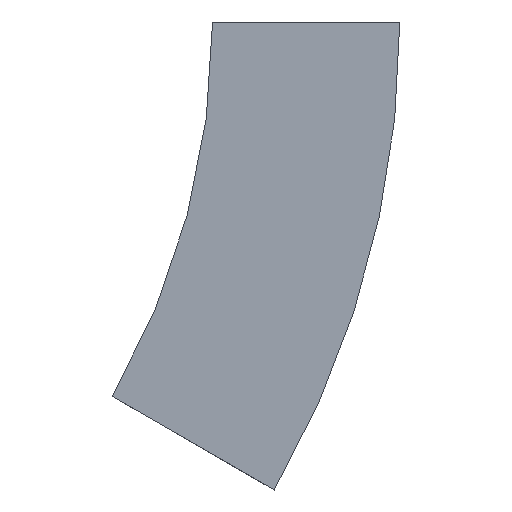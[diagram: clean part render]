
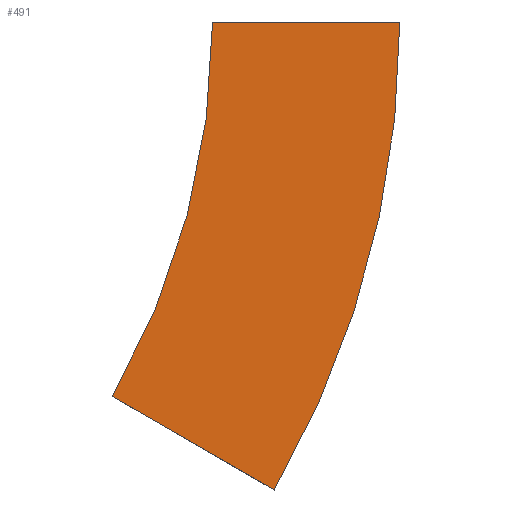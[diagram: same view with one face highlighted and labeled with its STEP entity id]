
A CAD part, left-side view. The second image highlights one B-rep face of the part: STEP entity #491.
In plain terms, the highlighted planar face has unit normal (-1, 0, 0) as drawn and (1, 0, 0) by its records, which use the part's own axes.
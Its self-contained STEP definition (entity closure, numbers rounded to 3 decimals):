
#30 = AXIS2_PLACEMENT_3D ( 'NONE', #272, #211, #227 ) ;
#34 = DIRECTION ( 'NONE',  ( 0., -1., 0. ) ) ;
#42 = LINE ( 'NONE', #116, #501 ) ;
#48 = PLANE ( 'NONE',  #425 ) ;
#62 = EDGE_CURVE ( 'NONE', #228, #251, #81, .T. ) ;
#81 = LINE ( 'NONE', #118, #146 ) ;
#93 = DIRECTION ( 'NONE',  ( 0., 0., 1. ) ) ;
#94 = CARTESIAN_POINT ( 'NONE',  ( 0., 0., 0. ) ) ;
#96 = CARTESIAN_POINT ( 'NONE',  ( 0., -75., 0. ) ) ;
#98 = ORIENTED_EDGE ( 'NONE', *, *, #370, .T. ) ;
#114 = VERTEX_POINT ( 'NONE', #166 ) ;
#116 = CARTESIAN_POINT ( 'NONE',  ( 0., -24.76, -187.5 ) ) ;
#118 = CARTESIAN_POINT ( 'NONE',  ( 0., -75., 0. ) ) ;
#122 = ORIENTED_EDGE ( 'NONE', *, *, #510, .T. ) ;
#124 = CARTESIAN_POINT ( 'NONE',  ( 0., 300., 0. ) ) ;
#146 = VECTOR ( 'NONE', #200, 1000. ) ;
#150 = DIRECTION ( 'NONE',  ( 0., 0.866, 0.5 ) ) ;
#166 = CARTESIAN_POINT ( 'NONE',  ( 0., 40.192, -150. ) ) ;
#195 = AXIS2_PLACEMENT_3D ( 'NONE', #124, #292, #34 ) ;
#200 = DIRECTION ( 'NONE',  ( 0., 1., 0. ) ) ;
#211 = DIRECTION ( 'NONE',  ( 1., 0., 0. ) ) ;
#227 = DIRECTION ( 'NONE',  ( 0., -1., 0. ) ) ;
#228 = VERTEX_POINT ( 'NONE', #536 ) ;
#233 = CIRCLE ( 'NONE', #195, 300. ) ;
#251 = VERTEX_POINT ( 'NONE', #94 ) ;
#260 = DIRECTION ( 'NONE',  ( -1., 0., 0. ) ) ;
#272 = CARTESIAN_POINT ( 'NONE',  ( 0., 300., 0. ) ) ;
#292 = DIRECTION ( 'NONE',  ( 1., 0., 0. ) ) ;
#293 = EDGE_LOOP ( 'NONE', ( #313, #390, #122, #98 ) ) ;
#312 = FACE_OUTER_BOUND ( 'NONE', #293, .T. ) ;
#313 = ORIENTED_EDGE ( 'NONE', *, *, #326, .F. ) ;
#326 = EDGE_CURVE ( 'NONE', #251, #114, #233, .T. ) ;
#351 = CIRCLE ( 'NONE', #30, 375. ) ;
#370 = EDGE_CURVE ( 'NONE', #446, #114, #42, .T. ) ;
#390 = ORIENTED_EDGE ( 'NONE', *, *, #62, .F. ) ;
#425 = AXIS2_PLACEMENT_3D ( 'NONE', #96, #260, #93 ) ;
#446 = VERTEX_POINT ( 'NONE', #490 ) ;
#490 = CARTESIAN_POINT ( 'NONE',  ( 0., -24.76, -187.5 ) ) ;
#491 = ADVANCED_FACE ( 'NONE', ( #312 ), #48, .F. ) ;
#501 = VECTOR ( 'NONE', #150, 1000. ) ;
#510 = EDGE_CURVE ( 'NONE', #228, #446, #351, .T. ) ;
#536 = CARTESIAN_POINT ( 'NONE',  ( 0., -75., 0. ) ) ;
